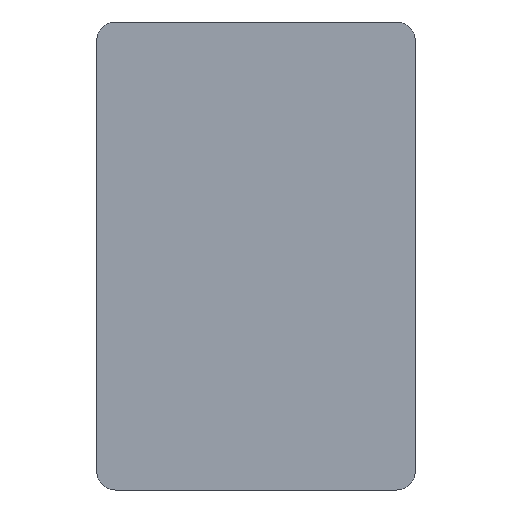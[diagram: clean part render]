
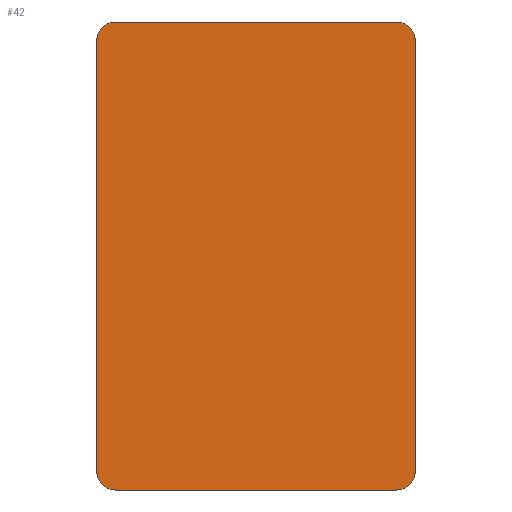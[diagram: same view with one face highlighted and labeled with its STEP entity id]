
A CAD part, front view. The second image highlights one B-rep face of the part: STEP entity #42.
In plain terms, the highlighted planar face has unit normal (0, -1, 0).
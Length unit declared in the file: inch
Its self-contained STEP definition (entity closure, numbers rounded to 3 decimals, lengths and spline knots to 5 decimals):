
#6 = EDGE_CURVE ( 'NONE', #334, #181, #206, .T. ) ;
#9 = CARTESIAN_POINT ( 'NONE',  ( 0.1715, 0., -0.232 ) ) ;
#10 = DIRECTION ( 'NONE',  ( 0., 0., 1. ) ) ;
#11 = AXIS2_PLACEMENT_3D ( 'NONE', #209, #85, #318 ) ;
#15 = ORIENTED_EDGE ( 'NONE', *, *, #252, .F. ) ;
#16 = CARTESIAN_POINT ( 'NONE',  ( 0.1715, 0., 0.232 ) ) ;
#18 = ORIENTED_EDGE ( 'NONE', *, *, #103, .F. ) ;
#19 = CARTESIAN_POINT ( 'NONE',  ( 0.1515, 0., -0.232 ) ) ;
#23 = AXIS2_PLACEMENT_3D ( 'NONE', #234, #268, #88 ) ;
#25 = ORIENTED_EDGE ( 'NONE', *, *, #89, .F. ) ;
#29 = AXIS2_PLACEMENT_3D ( 'NONE', #259, #138, #226 ) ;
#32 = ORIENTED_EDGE ( 'NONE', *, *, #278, .F. ) ;
#35 = EDGE_CURVE ( 'NONE', #167, #45, #375, .T. ) ;
#42 = ADVANCED_FACE ( 'NONE', ( #115 ), #292, .F. ) ;
#45 = VERTEX_POINT ( 'NONE', #183 ) ;
#54 = CARTESIAN_POINT ( 'NONE',  ( -0.1515, 0., -0.252 ) ) ;
#68 = DIRECTION ( 'NONE',  ( 0., 0., -1. ) ) ;
#69 = EDGE_CURVE ( 'NONE', #181, #362, #131, .T. ) ;
#72 = AXIS2_PLACEMENT_3D ( 'NONE', #220, #162, #10 ) ;
#74 = ORIENTED_EDGE ( 'NONE', *, *, #35, .F. ) ;
#76 = VERTEX_POINT ( 'NONE', #9 ) ;
#85 = DIRECTION ( 'NONE',  ( 0., 1., 0. ) ) ;
#87 = ORIENTED_EDGE ( 'NONE', *, *, #6, .F. ) ;
#88 = DIRECTION ( 'NONE',  ( 0., 0., 1. ) ) ;
#89 = EDGE_CURVE ( 'NONE', #258, #76, #196, .T. ) ;
#98 = CARTESIAN_POINT ( 'NONE',  ( -0.1515, 0., 0.252 ) ) ;
#103 = EDGE_CURVE ( 'NONE', #45, #258, #247, .T. ) ;
#115 = FACE_OUTER_BOUND ( 'NONE', #308, .T. ) ;
#119 = CARTESIAN_POINT ( 'NONE',  ( -0.1515, 0., 0.252 ) ) ;
#131 = CIRCLE ( 'NONE', #11, 0.02 ) ;
#138 = DIRECTION ( 'NONE',  ( 0., 1., 0. ) ) ;
#151 = ORIENTED_EDGE ( 'NONE', *, *, #69, .F. ) ;
#156 = CARTESIAN_POINT ( 'NONE',  ( -0.1715, 0., 0.232 ) ) ;
#162 = DIRECTION ( 'NONE',  ( 0., 1., 0. ) ) ;
#164 = VECTOR ( 'NONE', #68, 39.37008 ) ;
#166 = VECTOR ( 'NONE', #202, 39.37008 ) ;
#167 = VERTEX_POINT ( 'NONE', #98 ) ;
#172 = ORIENTED_EDGE ( 'NONE', *, *, #211, .F. ) ;
#181 = VERTEX_POINT ( 'NONE', #246 ) ;
#183 = CARTESIAN_POINT ( 'NONE',  ( 0.1515, 0., 0.252 ) ) ;
#196 = LINE ( 'NONE', #331, #164 ) ;
#197 = VECTOR ( 'NONE', #345, 39.37008 ) ;
#199 = VERTEX_POINT ( 'NONE', #156 ) ;
#202 = DIRECTION ( 'NONE',  ( 0., 0., 1. ) ) ;
#206 = LINE ( 'NONE', #54, #355 ) ;
#209 = CARTESIAN_POINT ( 'NONE',  ( -0.1515, 0., -0.232 ) ) ;
#211 = EDGE_CURVE ( 'NONE', #199, #167, #304, .T. ) ;
#220 = CARTESIAN_POINT ( 'NONE',  ( 0.1515, 0., 0.232 ) ) ;
#226 = DIRECTION ( 'NONE',  ( 0., 0., 1. ) ) ;
#229 = CARTESIAN_POINT ( 'NONE',  ( -0.1715, 0., -0.232 ) ) ;
#233 = CARTESIAN_POINT ( 'NONE',  ( 0.1515, 0., -0.252 ) ) ;
#234 = CARTESIAN_POINT ( 'NONE',  ( -0.1515, 0., 0.232 ) ) ;
#237 = DIRECTION ( 'NONE',  ( -1., 0., 0. ) ) ;
#246 = CARTESIAN_POINT ( 'NONE',  ( -0.1515, 0., -0.252 ) ) ;
#247 = CIRCLE ( 'NONE', #72, 0.02 ) ;
#252 = EDGE_CURVE ( 'NONE', #362, #199, #283, .T. ) ;
#258 = VERTEX_POINT ( 'NONE', #16 ) ;
#259 = CARTESIAN_POINT ( 'NONE',  ( -0.1515, 0., 0.232 ) ) ;
#263 = DIRECTION ( 'NONE',  ( 0., 0., -1. ) ) ;
#268 = DIRECTION ( 'NONE',  ( 0., 1., 0. ) ) ;
#278 = EDGE_CURVE ( 'NONE', #76, #334, #330, .T. ) ;
#283 = LINE ( 'NONE', #229, #166 ) ;
#291 = CARTESIAN_POINT ( 'NONE',  ( -0.1715, 0., -0.232 ) ) ;
#292 = PLANE ( 'NONE',  #23 ) ;
#304 = CIRCLE ( 'NONE', #29, 0.02 ) ;
#308 = EDGE_LOOP ( 'NONE', ( #172, #15, #151, #87, #32, #25, #18, #74 ) ) ;
#318 = DIRECTION ( 'NONE',  ( 0., 0., 1. ) ) ;
#330 = CIRCLE ( 'NONE', #378, 0.02 ) ;
#331 = CARTESIAN_POINT ( 'NONE',  ( 0.1715, 0., -0.232 ) ) ;
#334 = VERTEX_POINT ( 'NONE', #233 ) ;
#345 = DIRECTION ( 'NONE',  ( 1., 0., 0. ) ) ;
#355 = VECTOR ( 'NONE', #237, 39.37008 ) ;
#362 = VERTEX_POINT ( 'NONE', #291 ) ;
#363 = DIRECTION ( 'NONE',  ( 0., 1., 0. ) ) ;
#375 = LINE ( 'NONE', #119, #197 ) ;
#378 = AXIS2_PLACEMENT_3D ( 'NONE', #19, #363, #263 ) ;
